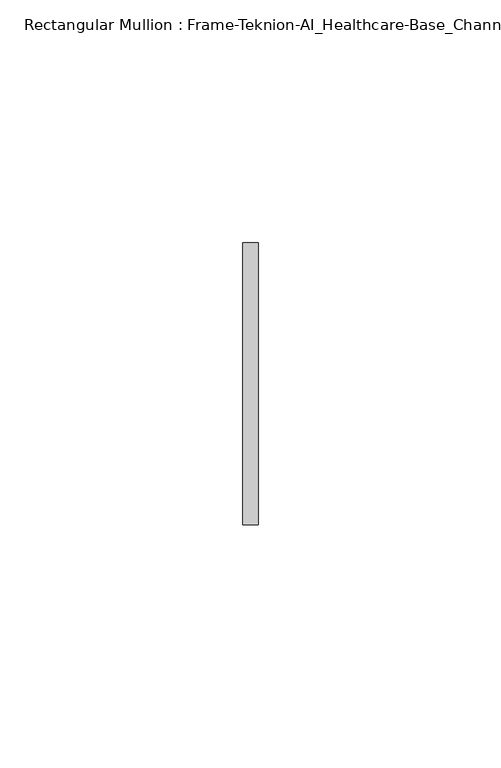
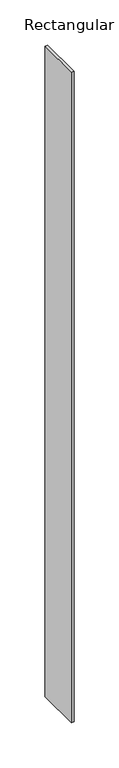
"""IFC4 building model written with IfcOpenShell, lengths in millimetres: member geometry, Rectangular Mullion : Frame-Teknion-AI_Healthcare-Base_Channel."""

import ifcopenshell
import ifcopenshell.guid

model = None  # the IFC model being written
_history = None  # IfcOwnerHistory: only IFC2X3 demands one
_inside = {}  # id of a spatial element -> (the spatial element, [elements in it])
_under = {}  # id of a project, library or spatial element -> (it, [spatial elements below it])
_declared = {}  # id of a project -> (the project, [libraries it declares])
_typed = {}  # id of a type object -> (the type object, [elements of that type])
_made_of = {}  # id of a material, layer set ... -> (it, [elements and type objects made of it])


def new_model(schema):
    """Start an empty IFC model of exactly this schema.

    Asked for "IFC4X3", IfcOpenShell would pick the latest addendum, in which some entities
    have other attributes; the version numbers below select the first issue.
    IFC2X3 requires an IfcOwnerHistory on every rooted entity: one is made here for all.
    """
    global model, _history
    if schema == "IFC4X3":
        model = ifcopenshell.file(schema_version=(4, 3, 0, 0))
    else:
        model = ifcopenshell.file(schema=schema)
    _inside.clear()
    _under.clear()
    _declared.clear()
    _typed.clear()
    _made_of.clear()
    _history = None
    if model.schema == "IFC2X3":
        org = make("IfcOrganization", Name="unknown")
        user = make(
            "IfcPersonAndOrganization",
            ThePerson=make("IfcPerson", FamilyName="unknown"),
            TheOrganization=org,
        )
        app = make(
            "IfcApplication",
            ApplicationDeveloper=org,
            Version="unknown",
            ApplicationFullName="unknown",
            ApplicationIdentifier="unknown",
        )
        _history = make(
            "IfcOwnerHistory",
            OwningUser=user,
            OwningApplication=app,
            ChangeAction="ADDED",
            CreationDate=0,
        )
    return model


def make(cls, **values):
    """One entity of the class cls with the attributes given. An attribute that is None is left unset."""
    return model.create_entity(
        cls, **{name: value for name, value in values.items() if value is not None}
    )


def rooted(cls, **values):
    """An entity with a GlobalId (a new one), such as an element, a storey or a relation."""
    return make(cls, GlobalId=ifcopenshell.guid.new(), OwnerHistory=_history, **values)


def si_unit(unit_type, name, prefix=None):
    """IfcSIUnit, for example si_unit("LENGTHUNIT", "METRE", prefix="MILLI")."""
    return make("IfcSIUnit", UnitType=unit_type, Prefix=prefix, Name=name)


def assignment(units):
    """IfcUnitAssignment: the units of a project."""
    return None if units is None else make("IfcUnitAssignment", Units=units)


def point(xyz):
    """IfcCartesianPoint."""
    return None if xyz is None else make("IfcCartesianPoint", Coordinates=xyz)


def direction(xyz):
    """IfcDirection."""
    return None if xyz is None else make("IfcDirection", DirectionRatios=xyz)


def frame(location, z_axis=None, x_axis=None):
    """IfcAxis2Placement3D, a coordinate frame: its origin and axes. An axis left out is left unset."""
    return make(
        "IfcAxis2Placement3D",
        Location=point(location),
        Axis=direction(z_axis),
        RefDirection=direction(x_axis),
    )


def origin():
    """The frame at (0, 0, 0) with its axes left unset."""
    return frame((0.0, 0.0, 0.0))


def place(relative_to, where):
    """IfcLocalPlacement: puts the frame where relative to a parent placement (None: the world)."""
    return make(
        "IfcLocalPlacement", PlacementRelTo=relative_to, RelativePlacement=where
    )


def context(
    kind, dimensions, precision=None, world=None, true_north=None, identifier=None
):
    """IfcGeometricRepresentationContext, for example the 3D "Model" context."""
    return make(
        "IfcGeometricRepresentationContext",
        ContextIdentifier=identifier,
        ContextType=kind,
        CoordinateSpaceDimension=dimensions,
        Precision=precision,
        WorldCoordinateSystem=world,
        TrueNorth=true_north,
    )


def project(units=None, contexts=None):
    """IfcProject with its units and contexts."""
    return rooted(
        "IfcProject",
        Name="project",
        RepresentationContexts=contexts,
        UnitsInContext=assignment(units),
    )


def spatial(cls, under=None, at=None, **own):
    """A site, building, storey or space (cls), placed at a placement, below another one or the project."""
    s = rooted(cls, ObjectPlacement=at, **own)
    if under is not None:
        _under.setdefault(under.id(), (under, []))[1].append(s)
    return s


def polyline(points):
    """IfcPolyline through the points."""
    return make("IfcPolyline", Points=[point(p) for p in points])


def outline(outer, holes=None, kind="AREA"):
    """IfcArbitraryClosedProfileDef: a profile drawn as a closed curve; with holes, ...WithVoids."""
    if holes is None:
        return make("IfcArbitraryClosedProfileDef", ProfileType=kind, OuterCurve=outer)
    return make(
        "IfcArbitraryProfileDefWithVoids",
        ProfileType=kind,
        OuterCurve=outer,
        InnerCurves=holes,
    )


def extrude(swept, where, along, depth):
    """IfcExtrudedAreaSolid: the profile swept, set in the frame where, extruded along a direction by depth."""
    return make(
        "IfcExtrudedAreaSolid",
        SweptArea=swept,
        Position=where,
        ExtrudedDirection=direction(along),
        Depth=depth,
    )


def shape(context_of_items, identifier, shape_type, items):
    """IfcShapeRepresentation: the items that make up one representation, for example the "Body"."""
    return make(
        "IfcShapeRepresentation",
        ContextOfItems=context_of_items,
        RepresentationIdentifier=identifier,
        RepresentationType=shape_type,
        Items=items,
    )


def source(mapping_origin, context_of_items, identifier, shape_type, items):
    """IfcRepresentationMap: a shape defined once, which mapped items show again and again."""
    return make(
        "IfcRepresentationMap",
        MappingOrigin=mapping_origin,
        MappedRepresentation=shape(context_of_items, identifier, shape_type, items),
    )


def transform(
    local_origin,
    x_axis=None,
    y_axis=None,
    z_axis=None,
    scale=None,
    scale2=None,
    scale3=None,
    uniform=True,
):
    """IfcCartesianTransformationOperator3D, or its non-uniform kind. x_axis, y_axis, z_axis: its Axis1, 2, 3."""
    if uniform:
        return make(
            "IfcCartesianTransformationOperator3D",
            Axis1=direction(x_axis),
            Axis2=direction(y_axis),
            LocalOrigin=point(local_origin),
            Scale=scale,
            Axis3=direction(z_axis),
        )
    return make(
        "IfcCartesianTransformationOperator3DnonUniform",
        Axis1=direction(x_axis),
        Axis2=direction(y_axis),
        LocalOrigin=point(local_origin),
        Scale=scale,
        Axis3=direction(z_axis),
        Scale2=scale2,
        Scale3=scale3,
    )


def mapped(mapping_source, mapping_target):
    """IfcMappedItem: shows the shape of a source again, moved by a transform."""
    return make(
        "IfcMappedItem", MappingSource=mapping_source, MappingTarget=mapping_target
    )


def made_of(thing, what):
    """Note that an element or type object is made of a material, layer set ...; save() writes the relation."""
    if what is not None:
        _made_of.setdefault(what.id(), (what, []))[1].append(thing)
    return thing


def element(
    cls,
    number,
    at=None,
    inside=None,
    cuts=None,
    type_object=None,
    material=None,
    context=None,
    identifier="Body",
    shape_type=None,
    held_by="IfcProductDefinitionShape",
    body=None,
    shapes=None,
    **own,
):
    """One element of the class cls, such as IfcWall. Its Tag is "e" and its number.

    at: its placement. inside: the storey or other place that contains it. cuts: it is an
    opening in that element (IfcRelVoidsElement). A single representation is given by context,
    identifier, shape_type and body (its items); several are given by shapes. held_by: the class
    of the entity that holds the representations. save() writes the other relations.
    """
    e = rooted(cls, Tag="e%d" % number, ObjectPlacement=at, **own)
    if body is not None:
        shapes = [shape(context, identifier, shape_type, body)]
    if shapes is not None:
        e.Representation = make(held_by, Representations=shapes)
    if inside is not None:
        _inside.setdefault(inside.id(), (inside, []))[1].append(e)
    if cuts is not None:
        rooted(
            "IfcRelVoidsElement", RelatingBuildingElement=cuts, RelatedOpeningElement=e
        )
    if type_object is not None:
        _typed.setdefault(type_object.id(), (type_object, []))[1].append(e)
    return made_of(e, material)


def aggregate(whole, parts):
    """IfcRelAggregates: a whole, such as a stair, and the parts it consists of."""
    return rooted("IfcRelAggregates", RelatingObject=whole, RelatedObjects=parts)


def save(model, path):
    """Write the relations noted so far, then the file.

    IfcRelAggregates (storeys below a building ...), IfcRelContainedInSpatialStructure (elements
    in a storey), IfcRelDefinesByType, IfcRelAssociatesMaterial and IfcRelDeclares: one each for
    every whole, place, type object, material and project.
    """
    for whole, parts in _under.values():
        aggregate(whole, parts)
    for where, things in _inside.values():
        rooted(
            "IfcRelContainedInSpatialStructure",
            RelatedElements=things,
            RelatingStructure=where,
        )
    for kind, things in _typed.values():
        rooted("IfcRelDefinesByType", RelatedObjects=things, RelatingType=kind)
    for what, things in _made_of.values():
        rooted("IfcRelAssociatesMaterial", RelatedObjects=things, RelatingMaterial=what)
    for by, libraries in _declared.values():
        rooted("IfcRelDeclares", RelatingContext=by, RelatedDefinitions=libraries)
    model.write(path)


def rectangular_mullion_frame_teknion_ai_healthcare_base_channel_0d83c600(model_context):
    return source(origin(), model_context, "Body", "SweptSolid", [
        extrude(outline(polyline([(0.0, 29.0214844), (0.0, -29.0214844), (-3.175, -29.0214844), (-3.175, 29.0214844), (0.0, 29.0214844)])), frame((0.0, 0.0, -876.3), z_axis=(0.0, 0.0, 1.0), x_axis=(1.0, 0.0, 0.0)), (0.0, 0.0, 1.0), 876.3),
    ])


if __name__ == "__main__":
    model = new_model("IFC4")
    model_context = context("Model", 3, world=origin())
    ifc_project = project(units=[si_unit("LENGTHUNIT", "METRE", prefix="MILLI")], contexts=[model_context])
    site = spatial("IfcSite", under=ifc_project)
    building = spatial("IfcBuilding", under=site)
    placement = place(None, origin())
    rectangular_mullion_frame_teknion_ai_healthcare_base_channel_shape = rectangular_mullion_frame_teknion_ai_healthcare_base_channel_0d83c600(model_context)
    element("IfcMember", 1, ObjectType="Rectangular Mullion : Frame-Teknion-AI_Healthcare-Base_Channel", at=placement, inside=building, context=model_context, shape_type="MappedRepresentation", body=[
        mapped(rectangular_mullion_frame_teknion_ai_healthcare_base_channel_shape, transform((0.0, 0.0, 0.0), x_axis=(1.0, 0.0, 0.0), y_axis=(0.0, 1.0, 0.0), z_axis=(0.0, 0.0, 1.0))),
    ])
    save(model, "model.ifc")
